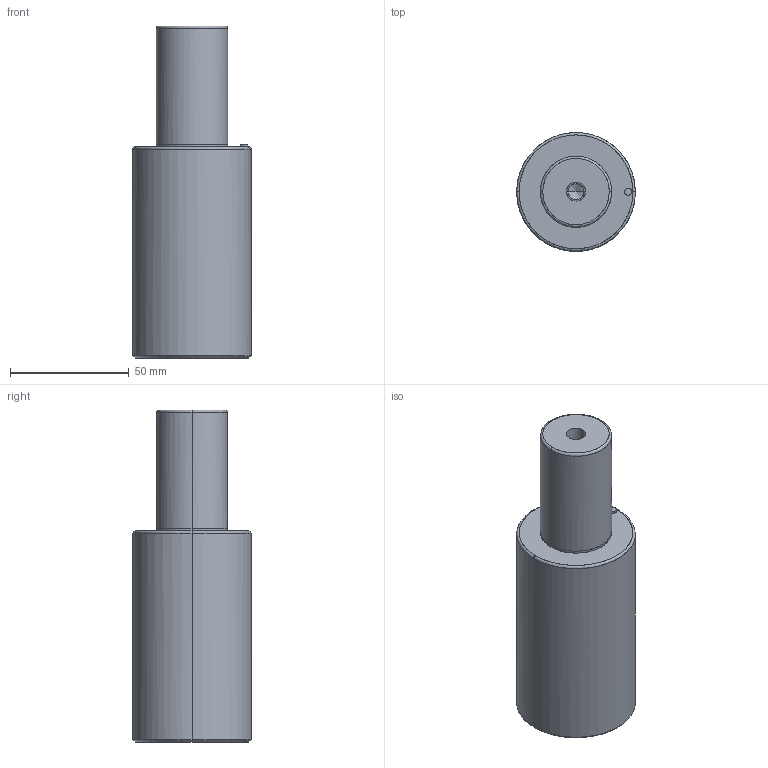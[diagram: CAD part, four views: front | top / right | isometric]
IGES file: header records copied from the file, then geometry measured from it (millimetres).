
Global section: file name: E:\UnigraphicsGraphicData\MISUMI_PRESS-PARTS\IGES\3d_gsc50-50_03819_r00.igs; native system: NX V5.0; preprocessor: UGS NX IGES V5.0; author: MISUMI; date: 20110105.160749; units: millimetre
Bounding box: 50 x 49.85 x 140 mm (x, y, z)
Surface area: 23406.7 mm2 (no closed solid volume)
Topology: 0 solids, 0 shells, 32 faces, 232 edges, 228 vertices
Faces by surface type: bspline 32
